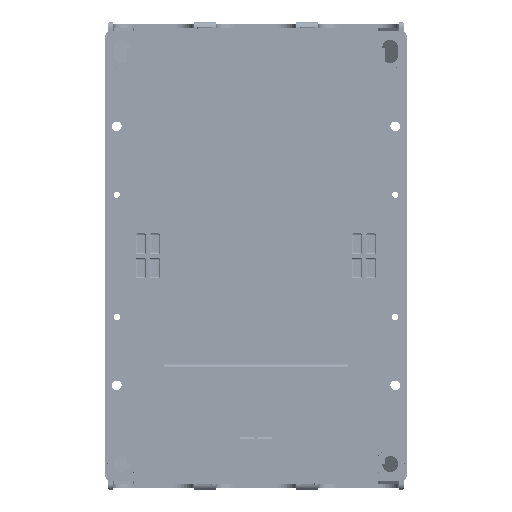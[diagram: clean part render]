
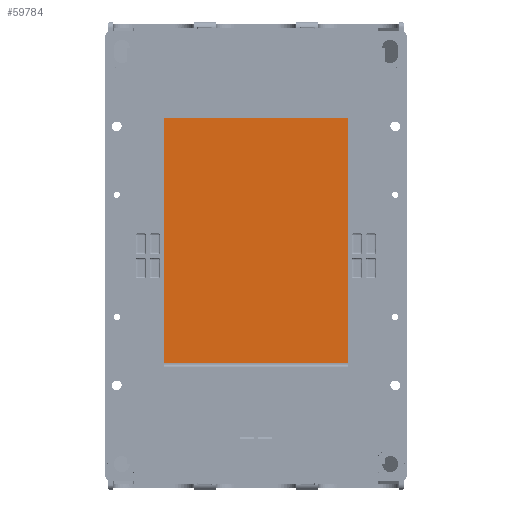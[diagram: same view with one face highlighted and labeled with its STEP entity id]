
A CAD part, front view. The second image highlights one B-rep face of the part: STEP entity #59784.
In plain terms, the highlighted planar face has unit normal (0, -1, 0).
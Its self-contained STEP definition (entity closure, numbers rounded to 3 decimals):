
#7052=PLANE('',#195038);
#24551=LINE('',#304104,#44517);
#24552=LINE('',#304107,#44518);
#24553=LINE('',#304109,#44519);
#24554=LINE('',#304111,#44520);
#44517=VECTOR('',#226800,1.);
#44518=VECTOR('',#226801,1.);
#44519=VECTOR('',#226802,1.);
#44520=VECTOR('',#226803,1.);
#59784=ADVANCED_FACE('',(#69761),#7052,.F.);
#69761=FACE_OUTER_BOUND('',#80231,.T.);
#80231=EDGE_LOOP('',(#114051,#114052,#114053,#114054));
#114051=ORIENTED_EDGE('',*,*,#170869,.F.);
#114052=ORIENTED_EDGE('',*,*,#170870,.T.);
#114053=ORIENTED_EDGE('',*,*,#170871,.F.);
#114054=ORIENTED_EDGE('',*,*,#170872,.T.);
#148400=VERTEX_POINT('',#304105);
#148401=VERTEX_POINT('',#304106);
#148402=VERTEX_POINT('',#304108);
#148403=VERTEX_POINT('',#304110);
#170869=EDGE_CURVE('',#148400,#148401,#24551,.T.);
#170870=EDGE_CURVE('',#148400,#148402,#24552,.T.);
#170871=EDGE_CURVE('',#148403,#148402,#24553,.T.);
#170872=EDGE_CURVE('',#148403,#148401,#24554,.T.);
#195038=AXIS2_PLACEMENT_3D('',#304112,#226804,#226805);
#226800=DIRECTION('',(1.,0.,0.));
#226801=DIRECTION('',(0.,0.,-1.));
#226802=DIRECTION('',(-1.,0.,0.));
#226803=DIRECTION('',(0.,0.,1.));
#226804=DIRECTION('',(0.,1.,0.));
#226805=DIRECTION('',(0.,0.,1.));
#304104=CARTESIAN_POINT('',(-64.,-179.25,74.7));
#304105=CARTESIAN_POINT('',(-49.8,-179.25,74.7));
#304106=CARTESIAN_POINT('',(49.8,-179.25,74.7));
#304107=CARTESIAN_POINT('',(-49.8,-179.25,78.5));
#304108=CARTESIAN_POINT('',(-49.8,-179.25,-58.));
#304109=CARTESIAN_POINT('',(64.962,-179.25,-58.));
#304110=CARTESIAN_POINT('',(49.8,-179.25,-58.));
#304111=CARTESIAN_POINT('',(49.8,-179.25,-78.5));
#304112=CARTESIAN_POINT('',(0.,-179.25,0.));
